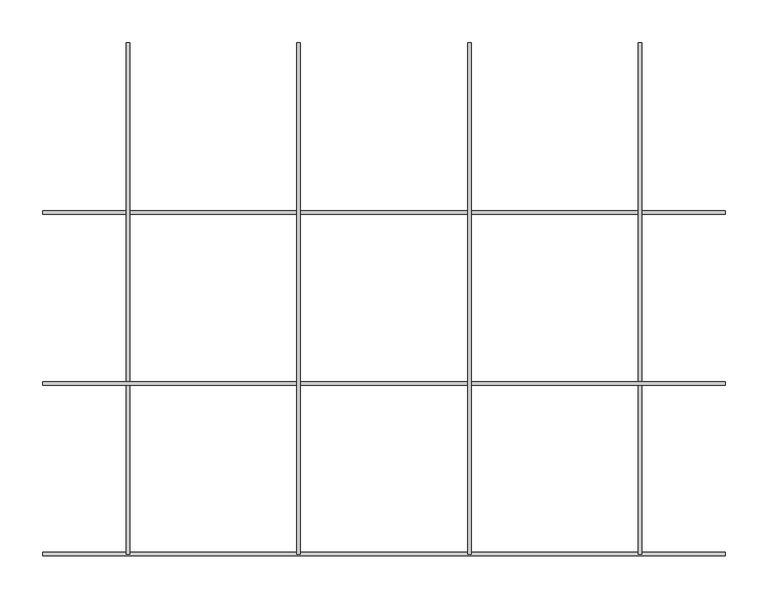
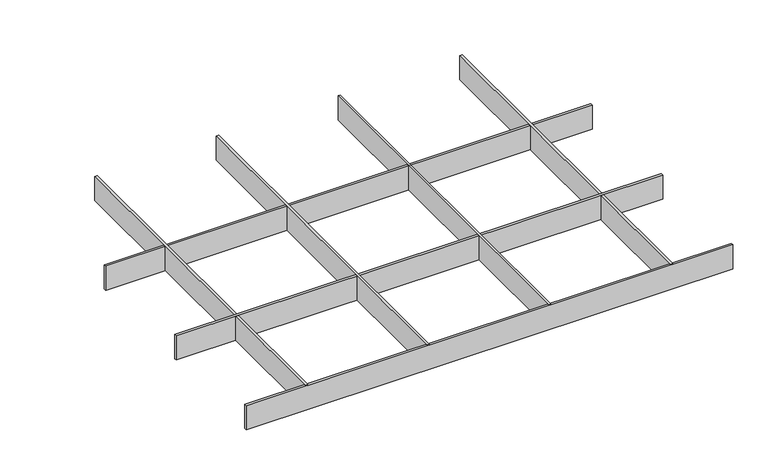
"""IFC4 building model written with IfcOpenShell, lengths in millimetres: proxy geometry, durlum_GEO_panel : durlum_GEO_4_length_cut."""

import ifcopenshell
import ifcopenshell.guid

model = None  # the IFC model being written
_history = None  # IfcOwnerHistory: only IFC2X3 demands one
_inside = {}  # id of a spatial element -> (the spatial element, [elements in it])
_under = {}  # id of a project, library or spatial element -> (it, [spatial elements below it])
_declared = {}  # id of a project -> (the project, [libraries it declares])
_typed = {}  # id of a type object -> (the type object, [elements of that type])
_made_of = {}  # id of a material, layer set ... -> (it, [elements and type objects made of it])


def new_model(schema):
    """Start an empty IFC model of exactly this schema.

    Asked for "IFC4X3", IfcOpenShell would pick the latest addendum, in which some entities
    have other attributes; the version numbers below select the first issue.
    IFC2X3 requires an IfcOwnerHistory on every rooted entity: one is made here for all.
    """
    global model, _history
    if schema == "IFC4X3":
        model = ifcopenshell.file(schema_version=(4, 3, 0, 0))
    else:
        model = ifcopenshell.file(schema=schema)
    _inside.clear()
    _under.clear()
    _declared.clear()
    _typed.clear()
    _made_of.clear()
    _history = None
    if model.schema == "IFC2X3":
        org = make("IfcOrganization", Name="unknown")
        user = make(
            "IfcPersonAndOrganization",
            ThePerson=make("IfcPerson", FamilyName="unknown"),
            TheOrganization=org,
        )
        app = make(
            "IfcApplication",
            ApplicationDeveloper=org,
            Version="unknown",
            ApplicationFullName="unknown",
            ApplicationIdentifier="unknown",
        )
        _history = make(
            "IfcOwnerHistory",
            OwningUser=user,
            OwningApplication=app,
            ChangeAction="ADDED",
            CreationDate=0,
        )
    return model


def make(cls, **values):
    """One entity of the class cls with the attributes given. An attribute that is None is left unset."""
    return model.create_entity(
        cls, **{name: value for name, value in values.items() if value is not None}
    )


def rooted(cls, **values):
    """An entity with a GlobalId (a new one), such as an element, a storey or a relation."""
    return make(cls, GlobalId=ifcopenshell.guid.new(), OwnerHistory=_history, **values)


def si_unit(unit_type, name, prefix=None):
    """IfcSIUnit, for example si_unit("LENGTHUNIT", "METRE", prefix="MILLI")."""
    return make("IfcSIUnit", UnitType=unit_type, Prefix=prefix, Name=name)


def assignment(units):
    """IfcUnitAssignment: the units of a project."""
    return None if units is None else make("IfcUnitAssignment", Units=units)


def point(xyz):
    """IfcCartesianPoint."""
    return None if xyz is None else make("IfcCartesianPoint", Coordinates=xyz)


def direction(xyz):
    """IfcDirection."""
    return None if xyz is None else make("IfcDirection", DirectionRatios=xyz)


def frame(location, z_axis=None, x_axis=None):
    """IfcAxis2Placement3D, a coordinate frame: its origin and axes. An axis left out is left unset."""
    return make(
        "IfcAxis2Placement3D",
        Location=point(location),
        Axis=direction(z_axis),
        RefDirection=direction(x_axis),
    )


def origin():
    """The frame at (0, 0, 0) with its axes left unset."""
    return frame((0.0, 0.0, 0.0))


def origin_with_axes():
    """The frame at (0, 0, 0) with the z axis (0, 0, 1) and the x axis (1, 0, 0) written out."""
    return frame((0.0, 0.0, 0.0), z_axis=(0.0, 0.0, 1.0), x_axis=(1.0, 0.0, 0.0))


def place(relative_to, where):
    """IfcLocalPlacement: puts the frame where relative to a parent placement (None: the world)."""
    return make(
        "IfcLocalPlacement", PlacementRelTo=relative_to, RelativePlacement=where
    )


def context(
    kind, dimensions, precision=None, world=None, true_north=None, identifier=None
):
    """IfcGeometricRepresentationContext, for example the 3D "Model" context."""
    return make(
        "IfcGeometricRepresentationContext",
        ContextIdentifier=identifier,
        ContextType=kind,
        CoordinateSpaceDimension=dimensions,
        Precision=precision,
        WorldCoordinateSystem=world,
        TrueNorth=true_north,
    )


def project(units=None, contexts=None):
    """IfcProject with its units and contexts."""
    return rooted(
        "IfcProject",
        Name="project",
        RepresentationContexts=contexts,
        UnitsInContext=assignment(units),
    )


def spatial(cls, under=None, at=None, **own):
    """A site, building, storey or space (cls), placed at a placement, below another one or the project."""
    s = rooted(cls, ObjectPlacement=at, **own)
    if under is not None:
        _under.setdefault(under.id(), (under, []))[1].append(s)
    return s


def polyline(points):
    """IfcPolyline through the points."""
    return make("IfcPolyline", Points=[point(p) for p in points])


def outline(outer, holes=None, kind="AREA"):
    """IfcArbitraryClosedProfileDef: a profile drawn as a closed curve; with holes, ...WithVoids."""
    if holes is None:
        return make("IfcArbitraryClosedProfileDef", ProfileType=kind, OuterCurve=outer)
    return make(
        "IfcArbitraryProfileDefWithVoids",
        ProfileType=kind,
        OuterCurve=outer,
        InnerCurves=holes,
    )


def extrude(swept, where, along, depth):
    """IfcExtrudedAreaSolid: the profile swept, set in the frame where, extruded along a direction by depth."""
    return make(
        "IfcExtrudedAreaSolid",
        SweptArea=swept,
        Position=where,
        ExtrudedDirection=direction(along),
        Depth=depth,
    )


def shape(context_of_items, identifier, shape_type, items):
    """IfcShapeRepresentation: the items that make up one representation, for example the "Body"."""
    return make(
        "IfcShapeRepresentation",
        ContextOfItems=context_of_items,
        RepresentationIdentifier=identifier,
        RepresentationType=shape_type,
        Items=items,
    )


def source(mapping_origin, context_of_items, identifier, shape_type, items):
    """IfcRepresentationMap: a shape defined once, which mapped items show again and again."""
    return make(
        "IfcRepresentationMap",
        MappingOrigin=mapping_origin,
        MappedRepresentation=shape(context_of_items, identifier, shape_type, items),
    )


def transform(
    local_origin,
    x_axis=None,
    y_axis=None,
    z_axis=None,
    scale=None,
    scale2=None,
    scale3=None,
    uniform=True,
):
    """IfcCartesianTransformationOperator3D, or its non-uniform kind. x_axis, y_axis, z_axis: its Axis1, 2, 3."""
    if uniform:
        return make(
            "IfcCartesianTransformationOperator3D",
            Axis1=direction(x_axis),
            Axis2=direction(y_axis),
            LocalOrigin=point(local_origin),
            Scale=scale,
            Axis3=direction(z_axis),
        )
    return make(
        "IfcCartesianTransformationOperator3DnonUniform",
        Axis1=direction(x_axis),
        Axis2=direction(y_axis),
        LocalOrigin=point(local_origin),
        Scale=scale,
        Axis3=direction(z_axis),
        Scale2=scale2,
        Scale3=scale3,
    )


def mapped(mapping_source, mapping_target):
    """IfcMappedItem: shows the shape of a source again, moved by a transform."""
    return make(
        "IfcMappedItem", MappingSource=mapping_source, MappingTarget=mapping_target
    )


def made_of(thing, what):
    """Note that an element or type object is made of a material, layer set ...; save() writes the relation."""
    if what is not None:
        _made_of.setdefault(what.id(), (what, []))[1].append(thing)
    return thing


def element(
    cls,
    number,
    at=None,
    inside=None,
    cuts=None,
    type_object=None,
    material=None,
    context=None,
    identifier="Body",
    shape_type=None,
    held_by="IfcProductDefinitionShape",
    body=None,
    shapes=None,
    **own,
):
    """One element of the class cls, such as IfcWall. Its Tag is "e" and its number.

    at: its placement. inside: the storey or other place that contains it. cuts: it is an
    opening in that element (IfcRelVoidsElement). A single representation is given by context,
    identifier, shape_type and body (its items); several are given by shapes. held_by: the class
    of the entity that holds the representations. save() writes the other relations.
    """
    e = rooted(cls, Tag="e%d" % number, ObjectPlacement=at, **own)
    if body is not None:
        shapes = [shape(context, identifier, shape_type, body)]
    if shapes is not None:
        e.Representation = make(held_by, Representations=shapes)
    if inside is not None:
        _inside.setdefault(inside.id(), (inside, []))[1].append(e)
    if cuts is not None:
        rooted(
            "IfcRelVoidsElement", RelatingBuildingElement=cuts, RelatedOpeningElement=e
        )
    if type_object is not None:
        _typed.setdefault(type_object.id(), (type_object, []))[1].append(e)
    return made_of(e, material)


def aggregate(whole, parts):
    """IfcRelAggregates: a whole, such as a stair, and the parts it consists of."""
    return rooted("IfcRelAggregates", RelatingObject=whole, RelatedObjects=parts)


def save(model, path):
    """Write the relations noted so far, then the file.

    IfcRelAggregates (storeys below a building ...), IfcRelContainedInSpatialStructure (elements
    in a storey), IfcRelDefinesByType, IfcRelAssociatesMaterial and IfcRelDeclares: one each for
    every whole, place, type object, material and project.
    """
    for whole, parts in _under.values():
        aggregate(whole, parts)
    for where, things in _inside.values():
        rooted(
            "IfcRelContainedInSpatialStructure",
            RelatedElements=things,
            RelatingStructure=where,
        )
    for kind, things in _typed.values():
        rooted("IfcRelDefinesByType", RelatedObjects=things, RelatingType=kind)
    for what, things in _made_of.values():
        rooted("IfcRelAssociatesMaterial", RelatedObjects=things, RelatingMaterial=what)
    for by, libraries in _declared.values():
        rooted("IfcRelDeclares", RelatingContext=by, RelatedDefinitions=libraries)
    model.write(path)


def generic_models_493e9e8c(model_context):
    return source(origin(), model_context, "Body", "SweptSolid", [
        extrude(outline(polyline([(98.0, 299.5), (102.0, 299.5), (102.0, -299.5), (98.0, -299.5), (98.0, 299.5)])), origin_with_axes(), (0.0, 0.0, 1.0), 42.0),
        extrude(outline(polyline([(-102.0, 299.5), (-98.0, 299.5), (-98.0, -299.5), (-102.0, -299.5), (-102.0, 299.5)])), origin_with_axes(), (0.0, 0.0, 1.0), 42.0),
        extrude(outline(polyline([(399.75, -97.5), (399.75, -101.5), (-399.75, -101.5), (-399.75, -97.5), (399.75, -97.5)])), origin_with_axes(), (0.0, 0.0, 1.0), 42.0),
        extrude(outline(polyline([(298.0, 299.5), (302.0, 299.5), (302.0, -299.5), (298.0, -299.5), (298.0, 299.5)])), origin_with_axes(), (0.0, 0.0, 1.0), 42.0),
        extrude(outline(polyline([(-302.0, 299.5), (-298.0, 299.5), (-298.0, -299.5), (-302.0, -299.5), (-302.0, 299.5)])), origin_with_axes(), (0.0, 0.0, 1.0), 42.0),
        extrude(outline(polyline([(399.75, -297.5), (399.75, -301.5), (-399.75, -301.5), (-399.75, -297.5), (399.75, -297.5)])), origin_with_axes(), (0.0, 0.0, 1.0), 42.0),
        extrude(outline(polyline([(399.75, 102.5), (399.75, 98.5), (-399.75, 98.5), (-399.75, 102.5), (399.75, 102.5)])), origin_with_axes(), (0.0, 0.0, 1.0), 42.0),
    ])


if __name__ == "__main__":
    model = new_model("IFC4")
    model_context = context("Model", 3, world=origin())
    ifc_project = project(units=[si_unit("LENGTHUNIT", "METRE", prefix="MILLI")], contexts=[model_context])
    site = spatial("IfcSite", under=ifc_project)
    building = spatial("IfcBuilding", under=site)
    placement = place(None, origin())
    generic_models_shape = generic_models_493e9e8c(model_context)
    element("IfcBuildingElementProxy", 1, Name="durlum_GEO_panel : durlum_GEO_4_length_cut", ObjectType="durlum_GEO_panel : durlum_GEO_4_length_cut", at=placement, inside=building, context=model_context, shape_type="MappedRepresentation", body=[
        mapped(generic_models_shape, transform((0.0, 0.0, 0.0), x_axis=(1.0, 0.0, 0.0), y_axis=(0.0, 1.0, 0.0), z_axis=(0.0, 0.0, 1.0))),
    ])
    save(model, "model.ifc")
